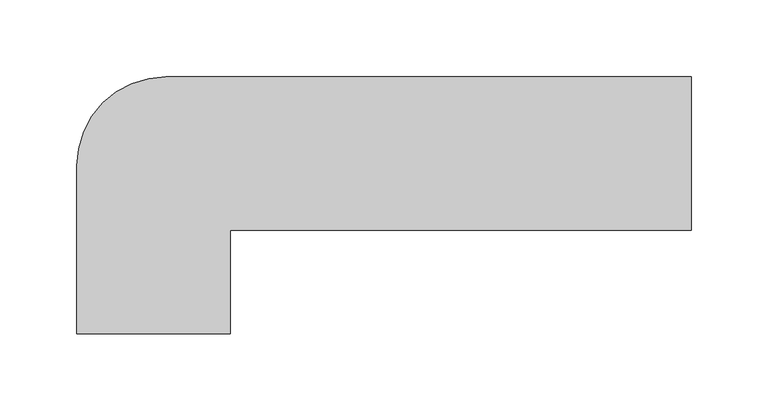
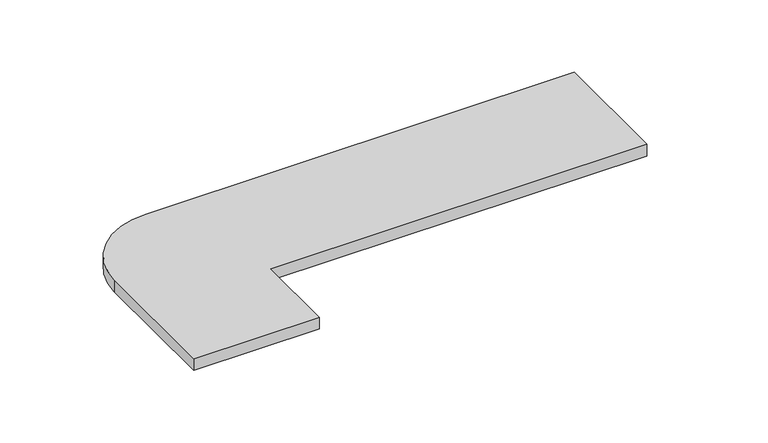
"""IFC4 building model written with IfcOpenShell, lengths in millimetres: proxy geometry, EXAGRES - Step Skirting Straight 42.3x17.5 : Exagres_Roca_Polar_Left."""

from ifc_helpers import new_model, si_unit, point, frame_2d, origin, origin_with_axes, place, context, project, spatial, polyline, circle_curve, trimmed, segment, composite_curve, outline, extrude, source, transform, mapped, element, save


def generic_models_3fcc1150(model_context):
    return source(origin(), model_context, "Body", "SweptSolid", [
        extrude(outline(composite_curve([segment(polyline([(300.0, 0.0), (0.0, 0.0), (0.0, -67.37), (-100.0, -67.37), (-100.0, 42.0)]), True, "CONTINUOUS"), segment(trimmed(circle_curve(frame_2d((-42.0, 42.0)), 58.0), [point((-100.0, 42.0))], [point((-42.0, 100.0))], False, "CARTESIAN"), True, "CONTINUOUS"), segment(polyline([(-42.0, 100.0), (300.0, 100.0), (300.0, 0.0)]), True, "CONTINUOUS")], self_intersect=False)), origin_with_axes(), (0.0, 0.0, 1.0), 10.0),
    ])


if __name__ == "__main__":
    model = new_model("IFC4")
    model_context = context("Model", 3, world=origin())
    ifc_project = project(units=[si_unit("LENGTHUNIT", "METRE", prefix="MILLI")], contexts=[model_context])
    site = spatial("IfcSite", under=ifc_project)
    building = spatial("IfcBuilding", under=site)
    placement = place(None, origin())
    generic_models_shape = generic_models_3fcc1150(model_context)
    element("IfcBuildingElementProxy", 1, Name="EXAGRES - Step Skirting Straight 42.3x17.5 : Exagres_Roca_Polar_Left", ObjectType="EXAGRES - Step Skirting Straight 42.3x17.5 : Exagres_Roca_Polar_Left", at=placement, inside=building, context=model_context, shape_type="MappedRepresentation", body=[
        mapped(generic_models_shape, transform((0.0, 0.0, 0.0), x_axis=(1.0, 0.0, 0.0), y_axis=(0.0, 1.0, 0.0), z_axis=(0.0, 0.0, 1.0))),
    ])
    save(model, "model.ifc")
